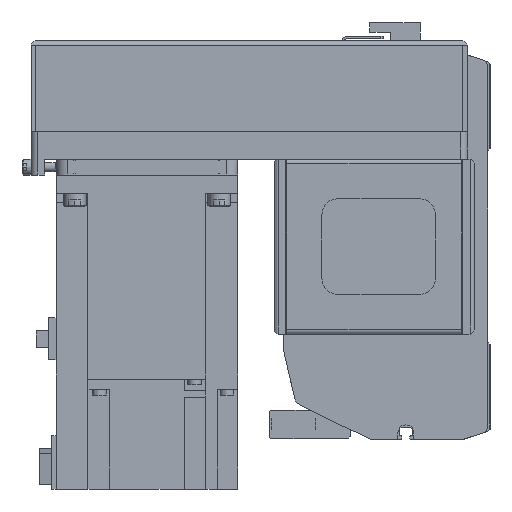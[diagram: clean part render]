
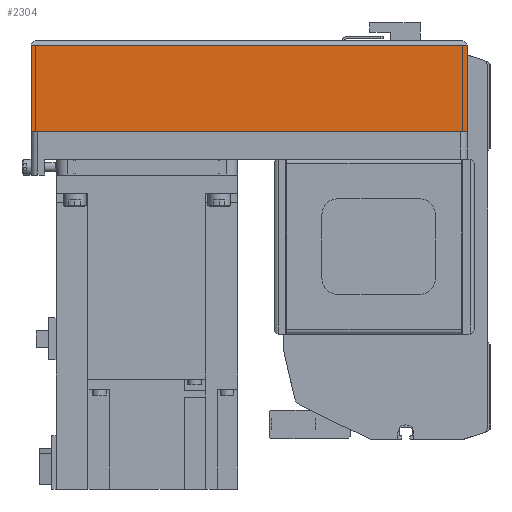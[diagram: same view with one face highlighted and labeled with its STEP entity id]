
A CAD part, left-side view. The second image highlights one B-rep face of the part: STEP entity #2304.
In plain terms, the highlighted planar face has unit normal (-1, 0, 0) as drawn and (0, 1, 0) by its records, which use the part's own axes.
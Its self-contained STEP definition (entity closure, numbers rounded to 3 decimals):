
#2304 = ADVANCED_FACE( '', ( #5139 ), #5140, .T. );
#5139 = FACE_OUTER_BOUND( '', #8509, .T. );
#5140 = PLANE( '', #8510 );
#8509 = EDGE_LOOP( '', ( #14955, #14956, #14957, #14958 ) );
#8510 = AXIS2_PLACEMENT_3D( '', #14959, #14960, #14961 );
#14955 = ORIENTED_EDGE( '', *, *, #21674, .F. );
#14956 = ORIENTED_EDGE( '', *, *, #19628, .F. );
#14957 = ORIENTED_EDGE( '', *, *, #21675, .T. );
#14958 = ORIENTED_EDGE( '', *, *, #21401, .T. );
#14959 = CARTESIAN_POINT( '', ( -192., 40., -50. ) );
#14960 = DIRECTION( '', ( 0., 1., 0. ) );
#14961 = DIRECTION( '', ( 0., 0., 1. ) );
#19628 = EDGE_CURVE( '', #23545, #23554, #23555, .T. );
#21401 = EDGE_CURVE( '', #26374, #26372, #26375, .T. );
#21674 = EDGE_CURVE( '', #23554, #26372, #26748, .T. );
#21675 = EDGE_CURVE( '', #23545, #26374, #26749, .T. );
#23545 = VERTEX_POINT( '', #29355 );
#23554 = VERTEX_POINT( '', #29366 );
#23555 = LINE( '', #29367, #29368 );
#26372 = VERTEX_POINT( '', #33531 );
#26374 = VERTEX_POINT( '', #33534 );
#26375 = LINE( '', #33535, #33536 );
#26748 = LINE( '', #34116, #34117 );
#26749 = LINE( '', #34118, #34119 );
#29355 = CARTESIAN_POINT( '', ( -192., 40., -50. ) );
#29366 = CARTESIAN_POINT( '', ( 0., 40., -50. ) );
#29367 = CARTESIAN_POINT( '', ( -192., 40., -50. ) );
#29368 = VECTOR( '', #36426, 1000. );
#33531 = CARTESIAN_POINT( '', ( 0., 40., -12.1 ) );
#33534 = CARTESIAN_POINT( '', ( -192., 40., -12.1 ) );
#33535 = CARTESIAN_POINT( '', ( -192., 40., -12.1 ) );
#33536 = VECTOR( '', #38629, 1000. );
#34116 = CARTESIAN_POINT( '', ( 0., 40., -50. ) );
#34117 = VECTOR( '', #38944, 1000. );
#34118 = CARTESIAN_POINT( '', ( -192., 40., -50. ) );
#34119 = VECTOR( '', #38945, 1000. );
#36426 = DIRECTION( '', ( 1., 0., 0. ) );
#38629 = DIRECTION( '', ( 1., 0., 0. ) );
#38944 = DIRECTION( '', ( 0., 0., 1. ) );
#38945 = DIRECTION( '', ( 0., 0., 1. ) );
